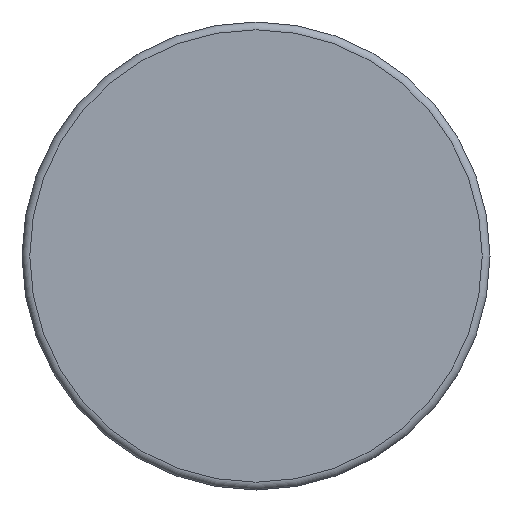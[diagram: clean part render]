
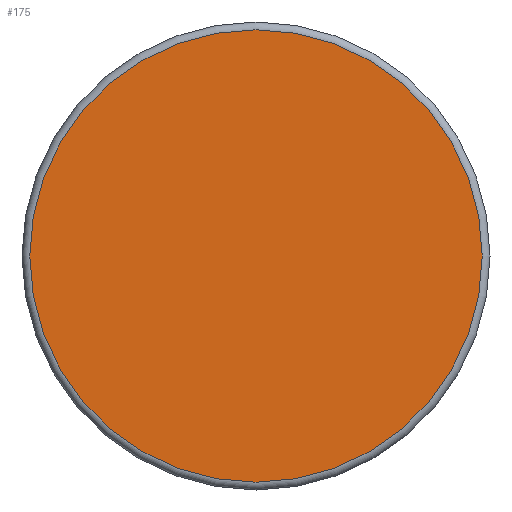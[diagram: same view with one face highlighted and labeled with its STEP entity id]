
A CAD part, front view. The second image highlights one B-rep face of the part: STEP entity #175.
In plain terms, the highlighted planar face has unit normal (0, -1, 0).
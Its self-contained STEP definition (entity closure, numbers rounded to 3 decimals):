
#175 = ADVANCED_FACE( '', ( #350 ), #351, .F. );
#350 = FACE_OUTER_BOUND( '', #550, .T. );
#351 = PLANE( '', #551 );
#550 = EDGE_LOOP( '', ( #811 ) );
#551 = AXIS2_PLACEMENT_3D( '', #812, #813, #814 );
#811 = ORIENTED_EDGE( '', *, *, #1154, .T. );
#812 = CARTESIAN_POINT( '', ( 29., 0., 0. ) );
#813 = DIRECTION( '', ( 0., 1., 0. ) );
#814 = DIRECTION( '', ( 0., 0., 1. ) );
#1154 = EDGE_CURVE( '', #1340, #1340, #1341, .T. );
#1340 = VERTEX_POINT( '', #1679 );
#1341 = CIRCLE( '', #1680, 29. );
#1679 = CARTESIAN_POINT( '', ( 0., 0., -29. ) );
#1680 = AXIS2_PLACEMENT_3D( '', #2039, #2040, #2041 );
#2039 = CARTESIAN_POINT( '', ( 0., 0., 0. ) );
#2040 = DIRECTION( '', ( 0., -1., 0. ) );
#2041 = DIRECTION( '', ( 0., 0., -1. ) );
